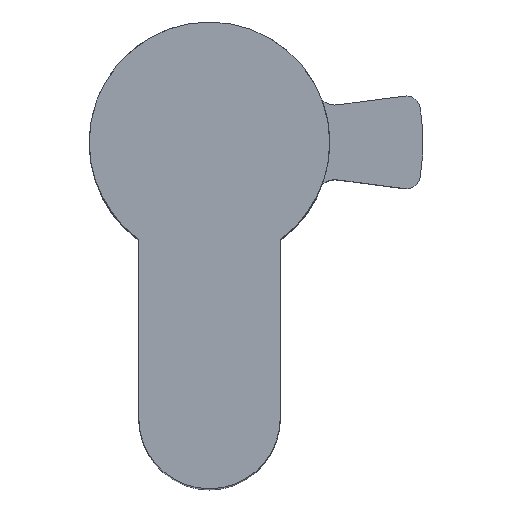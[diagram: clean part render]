
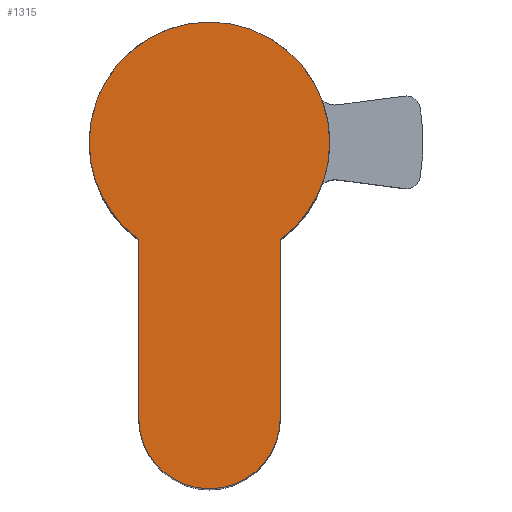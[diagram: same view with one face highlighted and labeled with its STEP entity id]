
A CAD part, top view. The second image highlights one B-rep face of the part: STEP entity #1315.
In plain terms, the highlighted planar face has unit normal (0, 0, 1).
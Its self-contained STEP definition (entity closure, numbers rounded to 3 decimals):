
#7 = AXIS2_PLACEMENT_3D ( 'NONE', #632, #514, #1105 ) ;
#8 = DIRECTION ( 'NONE',  ( 0., 1., 0. ) ) ;
#113 = DIRECTION ( 'NONE',  ( 1., 0., 0. ) ) ;
#119 = FACE_OUTER_BOUND ( 'NONE', #1139, .T. ) ;
#160 = EDGE_CURVE ( 'NONE', #1093, #428, #371, .T. ) ;
#201 = ORIENTED_EDGE ( 'NONE', *, *, #663, .T. ) ;
#221 = CIRCLE ( 'NONE', #1368, 8.5 ) ;
#230 = CARTESIAN_POINT ( 'NONE',  ( 5., -6.874, 10. ) ) ;
#270 = DIRECTION ( 'NONE',  ( 1., 0., 0. ) ) ;
#299 = CIRCLE ( 'NONE', #1445, 8.5 ) ;
#366 = ORIENTED_EDGE ( 'NONE', *, *, #1137, .T. ) ;
#371 = CIRCLE ( 'NONE', #7, 5. ) ;
#393 = ORIENTED_EDGE ( 'NONE', *, *, #843, .T. ) ;
#400 = CARTESIAN_POINT ( 'NONE',  ( -8.5, 0., 10. ) ) ;
#428 = VERTEX_POINT ( 'NONE', #1320 ) ;
#430 = AXIS2_PLACEMENT_3D ( 'NONE', #686, #1060, #113 ) ;
#457 = CARTESIAN_POINT ( 'NONE',  ( 0., 0., 10. ) ) ;
#514 = DIRECTION ( 'NONE',  ( 0., 0., 1. ) ) ;
#537 = LINE ( 'NONE', #1109, #1064 ) ;
#545 = VERTEX_POINT ( 'NONE', #400 ) ;
#559 = EDGE_CURVE ( 'NONE', #428, #883, #537, .T. ) ;
#563 = ORIENTED_EDGE ( 'NONE', *, *, #160, .T. ) ;
#581 = DIRECTION ( 'NONE',  ( 1., 0., 0. ) ) ;
#610 = DIRECTION ( 'NONE',  ( 1., 0., 0. ) ) ;
#632 = CARTESIAN_POINT ( 'NONE',  ( 0., -19.5, 10. ) ) ;
#637 = DIRECTION ( 'NONE',  ( 0., 0., 1. ) ) ;
#645 = ORIENTED_EDGE ( 'NONE', *, *, #559, .T. ) ;
#663 = EDGE_CURVE ( 'NONE', #1284, #545, #899, .T. ) ;
#686 = CARTESIAN_POINT ( 'NONE',  ( 0., 0., 10. ) ) ;
#782 = CARTESIAN_POINT ( 'NONE',  ( -5., -19.5, 10. ) ) ;
#843 = EDGE_CURVE ( 'NONE', #964, #1093, #1039, .T. ) ;
#883 = VERTEX_POINT ( 'NONE', #230 ) ;
#886 = ORIENTED_EDGE ( 'NONE', *, *, #1288, .T. ) ;
#899 = CIRCLE ( 'NONE', #430, 8.5 ) ;
#964 = VERTEX_POINT ( 'NONE', #978 ) ;
#978 = CARTESIAN_POINT ( 'NONE',  ( -5., -6.874, 10. ) ) ;
#987 = CARTESIAN_POINT ( 'NONE',  ( 0., 0., 10. ) ) ;
#1039 = LINE ( 'NONE', #1531, #1396 ) ;
#1060 = DIRECTION ( 'NONE',  ( 0., 0., 1. ) ) ;
#1064 = VECTOR ( 'NONE', #8, 1000. ) ;
#1081 = PLANE ( 'NONE',  #1121 ) ;
#1093 = VERTEX_POINT ( 'NONE', #782 ) ;
#1105 = DIRECTION ( 'NONE',  ( 1., 0., 0. ) ) ;
#1109 = CARTESIAN_POINT ( 'NONE',  ( 5., -19.5, 10. ) ) ;
#1121 = AXIS2_PLACEMENT_3D ( 'NONE', #987, #1189, #270 ) ;
#1137 = EDGE_CURVE ( 'NONE', #545, #964, #221, .T. ) ;
#1139 = EDGE_LOOP ( 'NONE', ( #886, #201, #366, #393, #563, #645 ) ) ;
#1164 = DIRECTION ( 'NONE',  ( 0., 0., 1. ) ) ;
#1189 = DIRECTION ( 'NONE',  ( 0., 0., 1. ) ) ;
#1212 = CARTESIAN_POINT ( 'NONE',  ( 8.5, 0., 10. ) ) ;
#1222 = CARTESIAN_POINT ( 'NONE',  ( 0., 0., 10. ) ) ;
#1284 = VERTEX_POINT ( 'NONE', #1212 ) ;
#1288 = EDGE_CURVE ( 'NONE', #883, #1284, #299, .T. ) ;
#1300 = DIRECTION ( 'NONE',  ( 0., -1., 0. ) ) ;
#1315 = ADVANCED_FACE ( 'NONE', ( #119 ), #1081, .T. ) ;
#1320 = CARTESIAN_POINT ( 'NONE',  ( 5., -19.5, 10. ) ) ;
#1368 = AXIS2_PLACEMENT_3D ( 'NONE', #457, #1164, #581 ) ;
#1396 = VECTOR ( 'NONE', #1300, 1000. ) ;
#1445 = AXIS2_PLACEMENT_3D ( 'NONE', #1222, #637, #610 ) ;
#1531 = CARTESIAN_POINT ( 'NONE',  ( -5., -6.874, 10. ) ) ;
